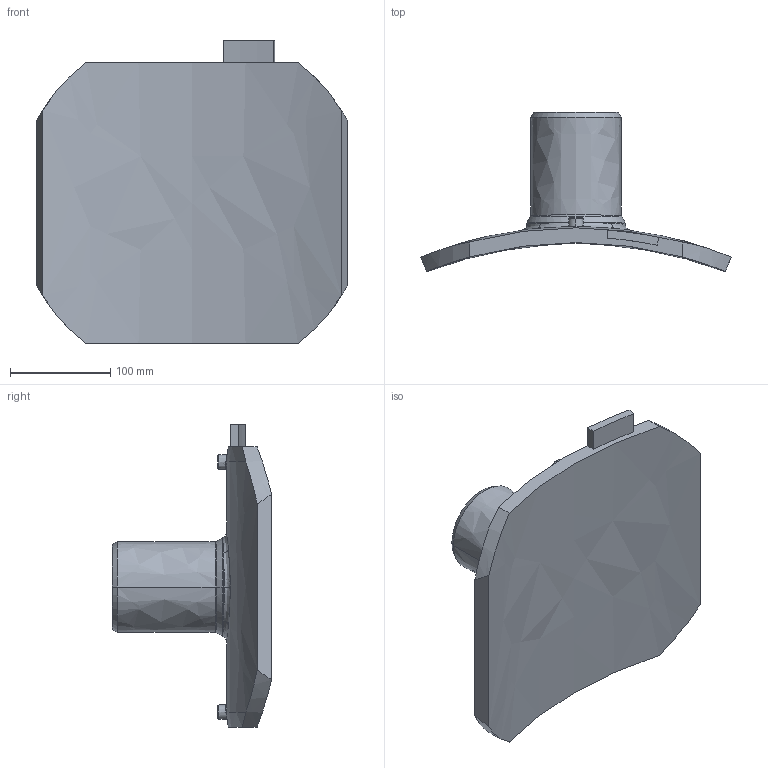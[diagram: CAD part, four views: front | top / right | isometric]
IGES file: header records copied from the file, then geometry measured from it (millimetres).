
Start section:  PTC IGES file: sa-uni_d800_90_01.igs
Global section: file name: sa-uni_d800_90_01.igs; native system: Pro/ENGINEER by Parametric Technology Corporation; preprocessor: 2011490; author: MikulicP; organization: Unknown; date: 20170207.150050; units: millimetre
Bounding box: 308.74 x 158.65 x 301 mm (x, y, z)
Surface area: 248673.6 mm2 (no closed solid volume)
Topology: 0 solids, 0 shells, 216 faces, 1070 edges, 1068 vertices
Faces by surface type: bspline 216
